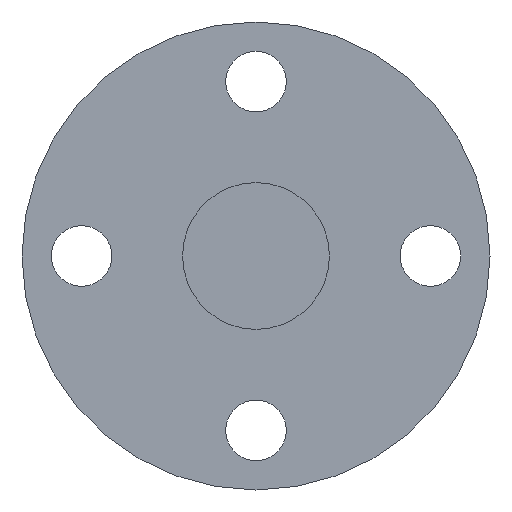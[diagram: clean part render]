
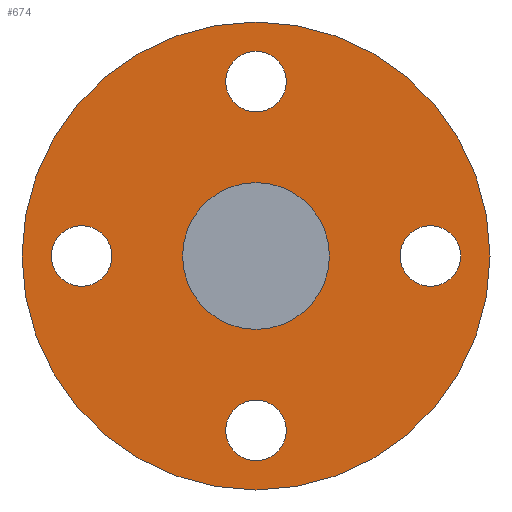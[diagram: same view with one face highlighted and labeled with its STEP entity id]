
A CAD part, left-side view. The second image highlights one B-rep face of the part: STEP entity #674.
In plain terms, the highlighted planar face has unit normal (-1, 0, 0).
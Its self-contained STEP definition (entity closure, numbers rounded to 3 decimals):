
#563=CARTESIAN_POINT('',(130.0,19.0,-3.3));
#564=VERTEX_POINT('',#563);
#565=CARTESIAN_POINT('',(130.0,19.0,0.));
#566=DIRECTION('',(1.0,0.0,0.0));
#567=DIRECTION('',(0.0,0.0,-1.0));
#568=AXIS2_PLACEMENT_3D('',#565,#566,#567);
#569=CIRCLE('',#568,3.3);
#570=EDGE_CURVE('',#564,#564,#569,.T.);
#583=CARTESIAN_POINT('',(130.0,-3.3,-19.0));
#584=VERTEX_POINT('',#583);
#585=CARTESIAN_POINT('',(130.0,0.,-19.0));
#586=DIRECTION('',(1.0,0.0,0.0));
#587=DIRECTION('',(0.0,-1.0,0.0));
#588=AXIS2_PLACEMENT_3D('',#585,#586,#587);
#589=CIRCLE('',#588,3.3);
#590=EDGE_CURVE('',#584,#584,#589,.T.);
#603=CARTESIAN_POINT('',(130.0,-19.0,3.3));
#604=VERTEX_POINT('',#603);
#605=CARTESIAN_POINT('',(130.0,-19.0,0.));
#606=DIRECTION('',(1.0,0.0,0.0));
#607=DIRECTION('',(0.0,0.0,1.0));
#608=AXIS2_PLACEMENT_3D('',#605,#606,#607);
#609=CIRCLE('',#608,3.3);
#610=EDGE_CURVE('',#604,#604,#609,.T.);
#623=CARTESIAN_POINT('',(130.0,3.3,19.0));
#624=VERTEX_POINT('',#623);
#625=CARTESIAN_POINT('',(130.0,0.0,19.0));
#626=DIRECTION('',(1.0,0.0,0.0));
#627=DIRECTION('',(0.0,1.0,0.0));
#628=AXIS2_PLACEMENT_3D('',#625,#626,#627);
#629=CIRCLE('',#628,3.3);
#630=EDGE_CURVE('',#624,#624,#629,.T.);
#635=CARTESIAN_POINT('',(130.0,0.0,16.75));
#636=DIRECTION('',(-1.0,0.0,0.0));
#637=DIRECTION('',(0.0,0.0,1.0));
#638=AXIS2_PLACEMENT_3D('',#635,#636,#637);
#639=PLANE('',#638);
#640=CARTESIAN_POINT('',(130.0,0.0,25.5));
#641=VERTEX_POINT('',#640);
#642=CARTESIAN_POINT('',(130.0,0.0,0.0));
#643=DIRECTION('',(-1.0,0.0,0.0));
#644=DIRECTION('',(0.0,0.0,1.0));
#645=AXIS2_PLACEMENT_3D('',#642,#643,#644);
#646=CIRCLE('',#645,25.5);
#647=EDGE_CURVE('',#641,#641,#646,.T.);
#648=ORIENTED_EDGE('',*,*,#647,.T.);
#649=EDGE_LOOP('',(#648));
#650=FACE_OUTER_BOUND('',#649,.T.);
#651=ORIENTED_EDGE('',*,*,#570,.T.);
#652=EDGE_LOOP('',(#651));
#653=FACE_BOUND('',#652,.T.);
#654=ORIENTED_EDGE('',*,*,#590,.T.);
#655=EDGE_LOOP('',(#654));
#656=FACE_BOUND('',#655,.T.);
#657=ORIENTED_EDGE('',*,*,#610,.T.);
#658=EDGE_LOOP('',(#657));
#659=FACE_BOUND('',#658,.T.);
#660=ORIENTED_EDGE('',*,*,#630,.T.);
#661=EDGE_LOOP('',(#660));
#662=FACE_BOUND('',#661,.T.);
#663=CARTESIAN_POINT('',(130.0,0.0,8.));
#664=VERTEX_POINT('',#663);
#665=CARTESIAN_POINT('',(130.0,0.0,0.0));
#666=DIRECTION('',(-1.0,0.0,0.0));
#667=DIRECTION('',(0.0,0.0,1.0));
#668=AXIS2_PLACEMENT_3D('',#665,#666,#667);
#669=CIRCLE('',#668,8.);
#670=EDGE_CURVE('',#664,#664,#669,.T.);
#671=ORIENTED_EDGE('',*,*,#670,.F.);
#672=EDGE_LOOP('',(#671));
#673=FACE_BOUND('',#672,.T.);
#674=ADVANCED_FACE('',(#650,#653,#656,#659,#662,#673),#639,.T.);
